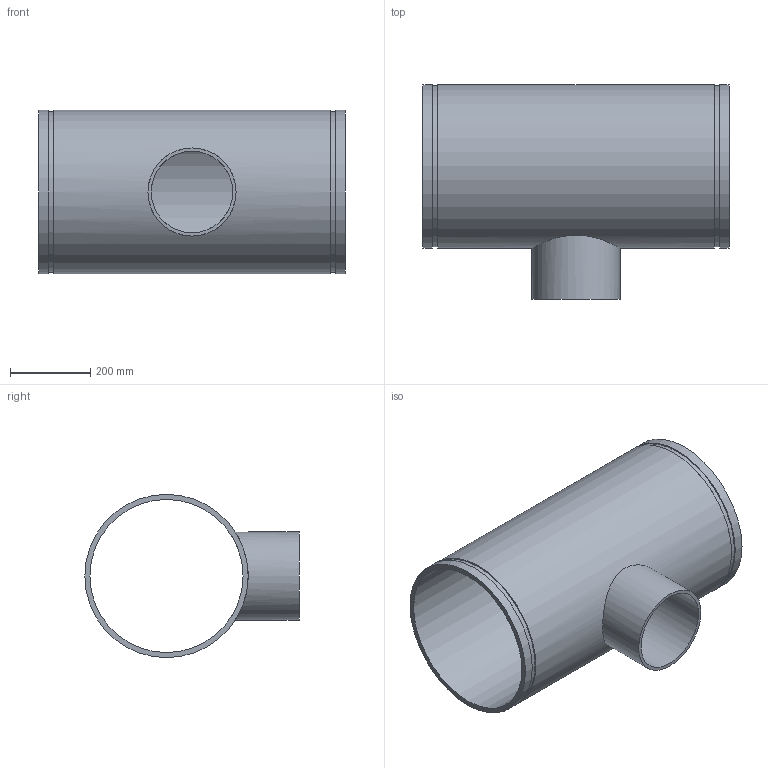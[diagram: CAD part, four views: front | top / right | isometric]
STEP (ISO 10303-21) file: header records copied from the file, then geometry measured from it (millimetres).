
FILE_DESCRIPTION(/* description */ ('VIC REDUCING TEE No 29T FFT (OGSxMPT)','CAx-IF Rec.Pracs.---Representation and Presentation of Product Manufacturing Information (PMI)---4.0---2014-10-13'),/* implementation_level */ '2;1');
FILE_NAME(/* name */ 'C:\Users\kkamble\AppData\Roaming\Autodesk\ApplicationPlugins\Back Up\Victaulic_IPS_Tee Reducing_No 29T FFT (OGSxMPT)\Victaulic_IPS_Tee Reducing_No 29T FFT (OGSxMPT)_16.0x08.0 (400x200).stp',/* time_stamp */ '2020-09-16T22:39:53+05:00',/* author */ ('CORINNE GRAY'),/* organization */ ('Victaulic'),/* preprocessor_version */ 'ST-DEVELOPER v17.2',/* originating_system */ 'Autodesk Inventor 2019',/* authorisation */ '');
FILE_SCHEMA (('AP242_MANAGED_MODEL_BASED_3D_ENGINEERING_MIM_LF { 1 0 10303 442 1 1 4 }'));
Length unit declared in the file: inch
Products named in the file (1): 29 FFT-16.0x08.0
Bounding box: 762 x 533.4 x 406.4 mm (x, y, z)
Volume: 12221813.7 mm3; surface area: 2058928.2 mm2
Topology: 1 solids, 1 shells, 15 faces, 32 edges, 24 vertices
Faces by surface type: cylinder 8, plane 7
Full cylindrical faces by diameter (mm): 202.717 x1, 219.075 x1, 381 x1, 400.837 x2, 406.4 x3
Entity records: 709 total; most frequent: CARTESIAN_POINT 221, DIRECTION 106, ORIENTED_EDGE 64, AXIS2_PLACEMENT_3D 49, EDGE_CURVE 32, EDGE_LOOP 24, VERTEX_POINT 24, CIRCLE 20
